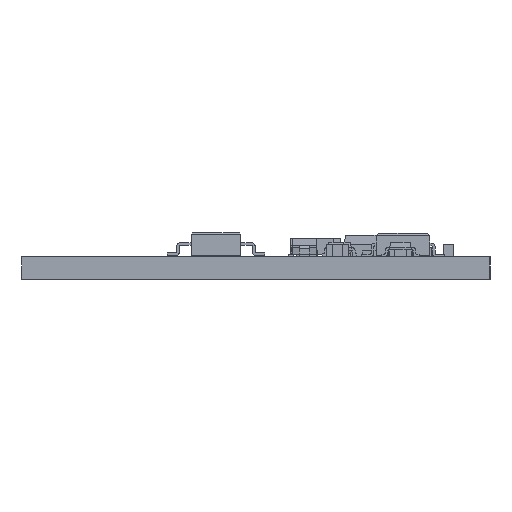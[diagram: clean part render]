
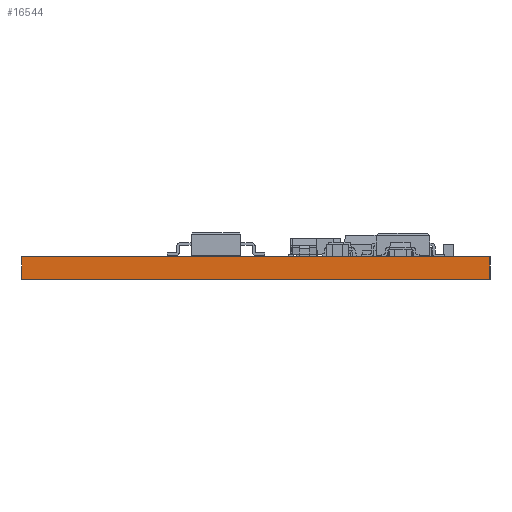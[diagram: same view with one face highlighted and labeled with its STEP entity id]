
A CAD part, left-side view. The second image highlights one B-rep face of the part: STEP entity #16544.
In plain terms, the highlighted planar face has unit normal (-1, 0, 0).
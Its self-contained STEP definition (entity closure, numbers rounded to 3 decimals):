
#1210=PLANE('',#17864);
#1862=FACE_OUTER_BOUND('',#2726,.T.);
#2726=EDGE_LOOP('',(#12078,#12079,#12080,#12081));
#3917=LINE('',#24488,#5544);
#3925=LINE('',#24503,#5552);
#3926=LINE('',#24505,#5553);
#3927=LINE('',#24506,#5554);
#5544=VECTOR('',#19996,10.);
#5552=VECTOR('',#20008,10.);
#5553=VECTOR('',#20011,10.);
#5554=VECTOR('',#20012,10.);
#7954=VERTEX_POINT('',#24485);
#7955=VERTEX_POINT('',#24487);
#7959=VERTEX_POINT('',#24499);
#7960=VERTEX_POINT('',#24501);
#9599=EDGE_CURVE('',#7954,#7955,#3917,.T.);
#9607=EDGE_CURVE('',#7959,#7960,#3925,.T.);
#9608=EDGE_CURVE('',#7954,#7959,#3926,.T.);
#9609=EDGE_CURVE('',#7955,#7960,#3927,.T.);
#12078=ORIENTED_EDGE('',*,*,#9608,.T.);
#12079=ORIENTED_EDGE('',*,*,#9607,.T.);
#12080=ORIENTED_EDGE('',*,*,#9609,.F.);
#12081=ORIENTED_EDGE('',*,*,#9599,.F.);
#16544=ADVANCED_FACE('',(#1862),#1210,.T.);
#17864=AXIS2_PLACEMENT_3D('',#24504,#20009,#20010);
#19996=DIRECTION('',(0.,0.,1.));
#20008=DIRECTION('',(0.,0.,1.));
#20009=DIRECTION('center_axis',(-1.,0.,0.));
#20010=DIRECTION('ref_axis',(0.,-1.,0.));
#20011=DIRECTION('',(0.,-1.,0.));
#20012=DIRECTION('',(0.,-1.,0.));
#24485=CARTESIAN_POINT('',(0.,35.,0.));
#24487=CARTESIAN_POINT('',(0.,35.,1.67));
#24488=CARTESIAN_POINT('',(0.,35.,0.));
#24499=CARTESIAN_POINT('',(0.,0.,0.));
#24501=CARTESIAN_POINT('',(0.,0.,1.67));
#24503=CARTESIAN_POINT('',(0.,0.,0.));
#24504=CARTESIAN_POINT('Origin',(0.,35.,0.));
#24505=CARTESIAN_POINT('',(0.,35.,0.));
#24506=CARTESIAN_POINT('',(0.,35.,1.67));
